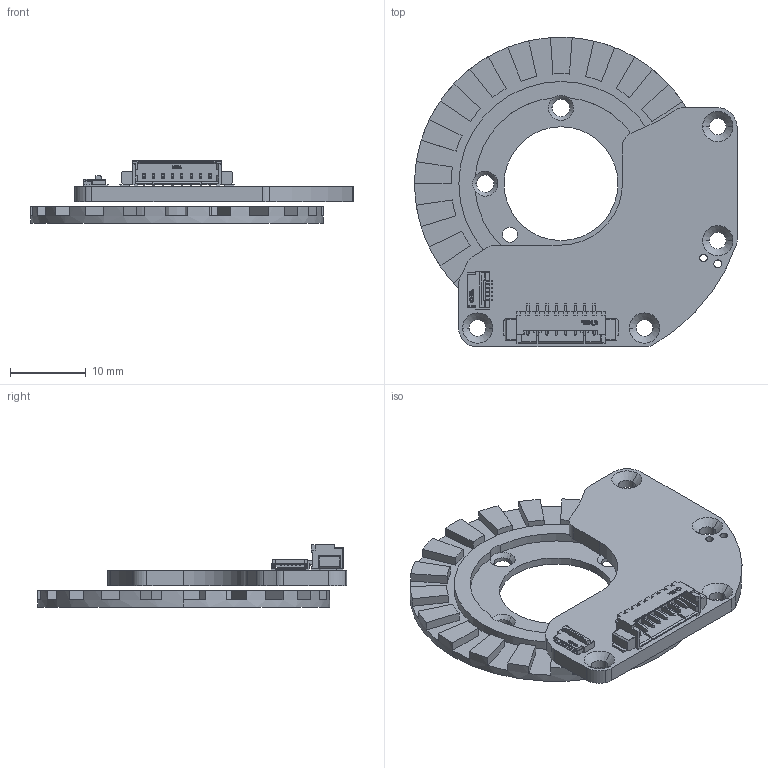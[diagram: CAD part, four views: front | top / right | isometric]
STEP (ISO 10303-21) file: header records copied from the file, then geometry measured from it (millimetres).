
FILE_DESCRIPTION((''),'2;1');
FILE_NAME('ASM_SAB_039_ASM','2025-05-06T',('ol'),(''),'PRO/ENGINEER BY PARAMETRIC TECHNOLOGY CORPORATION, 2017170','PRO/ENGINEER BY PARAMETRIC TECHNOLOGY CORPORATION, 2017170','');
FILE_SCHEMA(('CONFIG_CONTROL_DESIGN'));
Products named in the file (72): PRT0254_AF0; PRT0255; PRT0256; PRT0257; PRT0258; PRT0259; PRT0260; PRT0261; PRT0262; PRT0263; PRT0264; PRT0265; PRT0266; PRT0267; PRT0268; PRT0269; PRT0270; ASM0004_ASM_1_ASM; ASM0051_ASM; PRT0271; PRT0272; PRT0273; PRT0274; PRT0275; PRT0276; PRT0277; PRT0278; PRT0279; PRT0280; PRT0281; PRT0282; PRT0283; PRT0284; PRT0285; PRT0286; PRT0287; PRT0288; PRT0289; PRT0290; PRT0291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
Assembly tree (71 placements, depth 6):
  ASM_SAB_039_ASM
    SAB039_REV_1_8_ASM
      PCB_ASM_1_AF0_ASM
        PRT0254_AF0
        ASM0051_ASM
          ASM0004_ASM_1_ASM
            PRT0255
            PRT0256
            PRT0257
            PRT0258
            PRT0259
            PRT0260
            PRT0261
            PRT0262
            PRT0263
            PRT0264
            PRT0265
            PRT0266
            PRT0267
            PRT0268
            PRT0269
            PRT0270
        ASM0052_ASM
          ASM0009_ASM_1_ASM
            PRT0271
            PRT0272
            PRT0273
            PRT0274
            PRT0275
            PRT0276
            PRT0277
            PRT0278
            PRT0279
            PRT0280
            PRT0281
            PRT0282
            PRT0283
            PRT0284
            PRT0285
            PRT0286
            PRT0287
            PRT0288
            PRT0289
            PRT0290
            PRT0291
            PRT0292
            PRT0293
            PRT0294
            PRT0295
            PRT0296
            PRT0297
            PRT0298
            PRT0299
            PRT0300
            PRT0301
            PRT0302
            PRT0303
            PRT0304
            PRT0305
            PRT0306
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Bounding box: 42.55 x 40.8 x 8.25 mm (x, y, z)
Volume: 2905.6 mm3; surface area: 4825.2 mm2
Topology: 65 solids, 65 shells, 1580 faces, 4162 edges, 2741 vertices
Faces by surface type: plane 1076, extrusion 250, cylinder 232, cone 16, bspline 4, sphere 2
Entity records: 59880 total; most frequent: CARTESIAN_POINT 20127, ORIENTED_EDGE 8320, DIRECTION 7151, EDGE_CURVE 4160, VECTOR 3415, LINE 3165, VERTEX_POINT 2741, AXIS2_PLACEMENT_3D 1868
